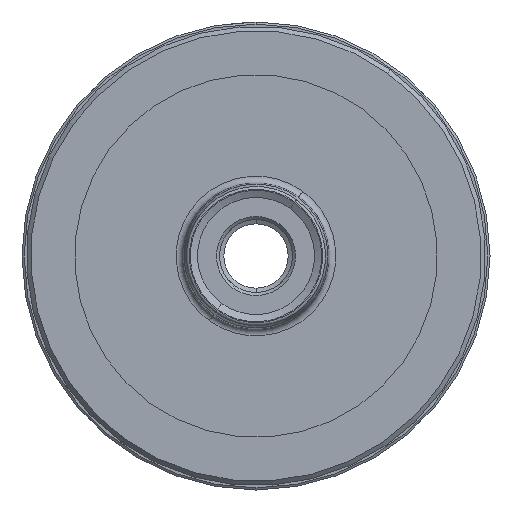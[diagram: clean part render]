
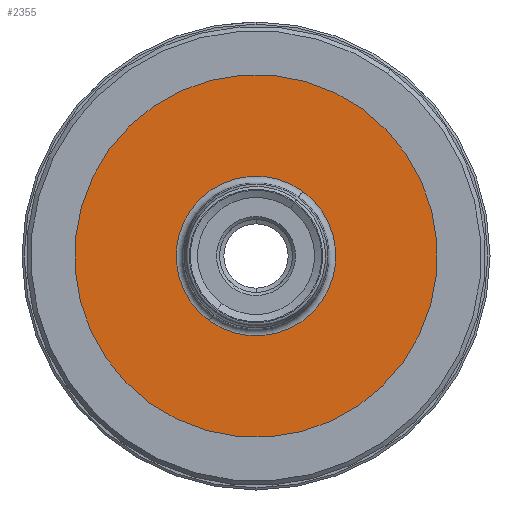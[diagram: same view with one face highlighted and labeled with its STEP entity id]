
A CAD part, left-side view. The second image highlights one B-rep face of the part: STEP entity #2355.
In plain terms, the highlighted planar face has unit normal (-1, 0, 0).
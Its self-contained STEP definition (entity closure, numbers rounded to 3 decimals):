
#171 = CARTESIAN_POINT ( 'NONE',  ( -26., 0., 0. ) ) ;
#195 = DIRECTION ( 'NONE',  ( 0., -0.585, 0.811 ) ) ;
#268 = VERTEX_POINT ( 'NONE', #3635 ) ;
#491 = FACE_BOUND ( 'NONE', #4608, .T. ) ;
#540 = FACE_OUTER_BOUND ( 'NONE', #3754, .T. ) ;
#882 = DIRECTION ( 'NONE',  ( 0., 0.585, -0.811 ) ) ;
#911 = VERTEX_POINT ( 'NONE', #3929 ) ;
#1007 = AXIS2_PLACEMENT_3D ( 'NONE', #2777, #4629, #195 ) ;
#1353 = AXIS2_PLACEMENT_3D ( 'NONE', #4201, #1981, #882 ) ;
#1390 = ORIENTED_EDGE ( 'NONE', *, *, #2122, .T. ) ;
#1550 = CIRCLE ( 'NONE', #3279, 62. ) ;
#1564 = AXIS2_PLACEMENT_3D ( 'NONE', #4646, #3899, #1678 ) ;
#1678 = DIRECTION ( 'NONE',  ( 0., -0.585, 0.811 ) ) ;
#1971 = DIRECTION ( 'NONE',  ( 1., 0., 0. ) ) ;
#1973 = ORIENTED_EDGE ( 'NONE', *, *, #2179, .T. ) ;
#1981 = DIRECTION ( 'NONE',  ( -1., 0., 0. ) ) ;
#2122 = EDGE_CURVE ( 'NONE', #3507, #911, #3680, .T. ) ;
#2179 = EDGE_CURVE ( 'NONE', #911, #3507, #4604, .T. ) ;
#2273 = ORIENTED_EDGE ( 'NONE', *, *, #2510, .F. ) ;
#2355 = ADVANCED_FACE ( 'NONE', ( #491, #540 ), #4583, .T. ) ;
#2510 = EDGE_CURVE ( 'NONE', #3751, #268, #4083, .T. ) ;
#2777 = CARTESIAN_POINT ( 'NONE',  ( -26., 0., 0. ) ) ;
#2926 = AXIS2_PLACEMENT_3D ( 'NONE', #4271, #3151, #3860 ) ;
#3122 = CARTESIAN_POINT ( 'NONE',  ( -26., -15.975, 22.138 ) ) ;
#3151 = DIRECTION ( 'NONE',  ( 1., 0., 0. ) ) ;
#3279 = AXIS2_PLACEMENT_3D ( 'NONE', #171, #1971, #4573 ) ;
#3507 = VERTEX_POINT ( 'NONE', #3122 ) ;
#3538 = EDGE_CURVE ( 'NONE', #268, #3751, #1550, .T. ) ;
#3635 = CARTESIAN_POINT ( 'NONE',  ( -26., 36.281, -50.276 ) ) ;
#3680 = CIRCLE ( 'NONE', #2926, 27.3 ) ;
#3751 = VERTEX_POINT ( 'NONE', #4459 ) ;
#3754 = EDGE_LOOP ( 'NONE', ( #2273, #4616 ) ) ;
#3860 = DIRECTION ( 'NONE',  ( 0., -0.585, 0.811 ) ) ;
#3899 = DIRECTION ( 'NONE',  ( 1., 0., 0. ) ) ;
#3929 = CARTESIAN_POINT ( 'NONE',  ( -26., 15.975, -22.138 ) ) ;
#4083 = CIRCLE ( 'NONE', #1564, 62. ) ;
#4201 = CARTESIAN_POINT ( 'NONE',  ( -26., -50.276, -36.281 ) ) ;
#4271 = CARTESIAN_POINT ( 'NONE',  ( -26., 0., 0. ) ) ;
#4459 = CARTESIAN_POINT ( 'NONE',  ( -26., -36.281, 50.276 ) ) ;
#4573 = DIRECTION ( 'NONE',  ( 0., -0.585, 0.811 ) ) ;
#4583 = PLANE ( 'NONE',  #1353 ) ;
#4604 = CIRCLE ( 'NONE', #1007, 27.3 ) ;
#4608 = EDGE_LOOP ( 'NONE', ( #1390, #1973 ) ) ;
#4616 = ORIENTED_EDGE ( 'NONE', *, *, #3538, .F. ) ;
#4629 = DIRECTION ( 'NONE',  ( 1., 0., 0. ) ) ;
#4646 = CARTESIAN_POINT ( 'NONE',  ( -26., 0., 0. ) ) ;
